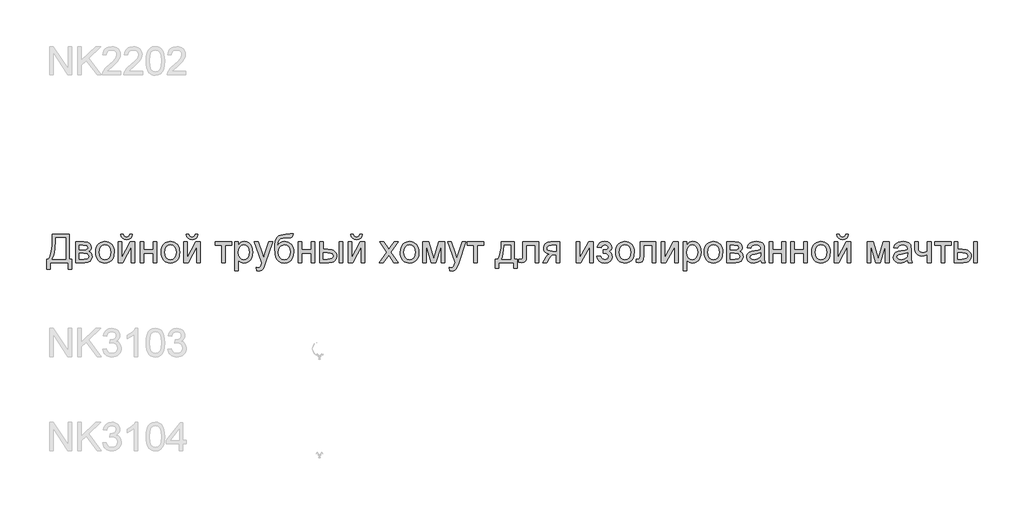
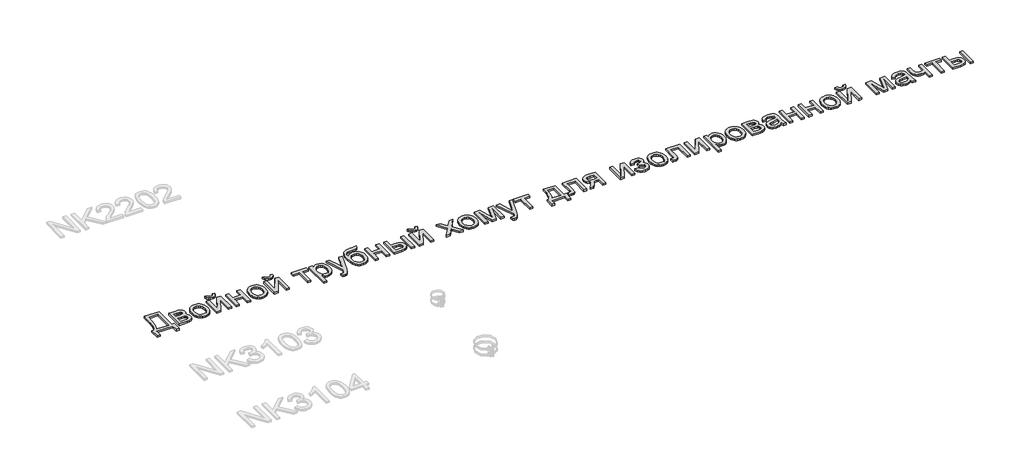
# One storey, part 16 of 124: 1 proxy.
"""IFC4 building model written with IfcOpenShell, lengths in millimetres."""

from ifc_helpers import new_model, si_unit, origin, origin_with_axes, place, context, project, spatial, polyline, outline, extrude, element, save

model = new_model("IFC4")

# Units and contexts
model_context = context("Model", 3, world=origin())
ifc_project = project(units=[si_unit("LENGTHUNIT", "METRE", prefix="MILLI")], contexts=[model_context])

# Site, building, storey
site = spatial("IfcSite", under=ifc_project)
building = spatial("IfcBuilding", under=site)
storey = spatial("IfcBuildingStorey", under=building, Name="Этаж 01", Elevation=0.0)

# Proxy
placement = place(None, origin())
element("IfcBuildingElementProxy", 1, Name="300", ObjectType="300", at=placement, inside=storey, context=model_context, shape_type="SweptSolid", body=[
    extrude(outline(polyline([(1328.0754049, -104247.5042234), (1507.0132074, -104247.5042234), (1507.0132074, -104511.2020376), (1535.2665446, -104511.2020376), (1535.2665446, -104619.506497), (1497.5954283, -104619.506497), (1497.5954283, -104548.8731539), (1304.5309572, -104548.8731539), (1304.5309572, -104619.506497), (1266.8598409, -104619.506497), (1266.8598409, -104511.2020376), (1290.4042886, -104511.2020376), (1306.885402, -104477.0303988), (1318.6576258, -104428.9620176), (1325.7209602, -104366.996894), (1328.0754049, -104291.1350281), (1328.0754049, -104247.5042234)]), holes=[polyline([(1469.3420911, -104285.1753397), (1365.7465212, -104285.1753397), (1365.7465212, -104300.3320779), (1358.0945757, -104403.5597658), (1346.7638103, -104463.2118313), (1328.0754049, -104511.2020376), (1469.3420911, -104511.2020376), (1469.3420911, -104285.1753397)])]), origin_with_axes(), (0.0, 0.0, 1.0), 20.0),
    extrude(outline(polyline([(1577.6465505, -104327.5553456), (1660.6407286, -104327.5553456), (1687.3213703, -104328.8153414), (1706.1477314, -104332.5953289), (1719.9984885, -104339.7322396), (1731.7523182, -104351.0630051), (1739.7813428, -104365.8242701), (1742.4576843, -104383.2526797), (1740.8390035, -104397.2965748), (1735.9829612, -104409.4090895), (1727.8711632, -104419.645406), (1716.4852154, -104428.0607067), (1730.427943, -104435.8873961), (1741.7954967, -104448.4781574), (1749.3554717, -104464.8397091), (1751.8754634, -104483.9787699), (1745.4927108, -104512.6919597), (1730.3175784, -104532.9070753), (1706.2948842, -104544.8816342), (1673.3694456, -104548.8731539), (1577.6465505, -104548.8731539), (1577.6465505, -104327.5553456)]), holes=[polyline([(1615.3176668, -104412.3153573), (1652.5473247, -104412.3153573), (1683.2654713, -104410.4023709), (1698.2014803, -104402.7504254), (1703.1402961, -104396.4228551), (1704.786568, -104388.9180624), (1701.8986943, -104377.6792674), (1693.2350733, -104370.4503862), (1677.5816944, -104366.532443), (1653.7245471, -104365.2264619), (1615.3176668, -104365.2264619), (1615.3176668, -104412.3153573)]), polyline([(1615.3176668, -104511.2020376), (1661.5236454, -104511.2020376), (1686.7051679, -104509.5005834), (1702.5056996, -104504.3962207), (1710.9853796, -104495.1163973), (1714.2043471, -104480.8885612), (1712.5948633, -104471.4615851), (1707.7664121, -104462.7519788), (1700.3535899, -104455.9369649), (1690.9909932, -104452.1937656), (1657.8448254, -104449.9864736), (1615.3176668, -104449.9864736), (1615.3176668, -104511.2020376)])]), origin_with_axes(), (0.0, 0.0, 1.0), 20.0),
    extrude(outline(polyline([(1789.5465797, -104438.2142497), (1791.5837262, -104409.5516438), (1797.6951659, -104384.8529663), (1807.8808986, -104364.1182174), (1822.1409244, -104347.3473969), (1836.4975193, -104336.6282353), (1852.3440362, -104328.9716913), (1869.6804753, -104324.3777649), (1888.5068364, -104322.846456), (1909.2898698, -104324.7111579), (1928.081742, -104330.3052635), (1944.8824529, -104339.6287728), (1959.6920024, -104352.6816859), (1971.7792252, -104369.0225442), (1980.4129558, -104388.2098895), (1985.5931942, -104410.2437218), (1987.3199403, -104435.124041), (1984.2665197, -104473.1814334), (1975.106258, -104502.1521405), (1960.1058697, -104523.8479812), (1939.5320691, -104540.0807742), (1915.0955076, -104550.2067261), (1888.5068364, -104553.5820434), (1867.4203003, -104551.7242393), (1848.4536842, -104546.1508271), (1831.606988, -104536.8618067), (1816.8802119, -104523.8571782), (1804.9217478, -104507.3576707), (1796.3799877, -104487.5840135), (1791.2549317, -104464.5362065), (1789.5465797, -104438.2142497)]), holes=[polyline([(1827.217696, -104438.1406733), (1831.5770976, -104472.2341372), (1844.6553026, -104496.523546), (1864.3369893, -104511.0640818), (1888.5068364, -104515.9109271), (1912.5663189, -104511.0364907), (1932.2112174, -104496.4131814), (1945.2894223, -104471.8018759), (1949.648824, -104436.963451), (1945.2618312, -104403.8632684), (1932.1008528, -104379.9049535), (1912.4283631, -104365.3644176), (1888.5068364, -104360.5175724), (1864.3369893, -104365.3460235), (1844.6553026, -104379.8313771), (1831.5770976, -104404.0656035), (1827.217696, -104438.1406733)])]), origin_with_axes(), (0.0, 0.0, 1.0), 20.0),
    extrude(outline(polyline([(2029.6999461, -104327.5553456), (2067.3710624, -104327.5553456), (2067.3710624, -104496.339605), (2159.9301724, -104327.5553456), (2208.6377486, -104327.5553456), (2208.6377486, -104548.8731539), (2170.9666323, -104548.8731539), (2170.9666323, -104381.1189641), (2078.9961335, -104548.8731539), (2029.6999461, -104548.8731539), (2029.6999461, -104327.5553456)])), origin_with_axes(), (0.0, 0.0, 1.0), 20.0),
    extrude(outline(polyline([(2152.1310741, -104247.5042234), (2180.3844113, -104247.5042234), (2174.3051614, -104271.6280853), (2162.1006762, -104289.4059827), (2144.3227788, -104300.3596691), (2121.5232921, -104304.0108979), (2096.7832279, -104300.3872602), (2077.5981819, -104289.5163473), (2064.4831888, -104271.766041), (2057.9532834, -104247.5042234), (2086.2066206, -104247.5042234), (2090.1797461, -104259.9110437), (2096.801622, -104268.7310146), (2106.1090365, -104274.0009241), (2118.1387778, -104275.7575607), (2131.7136234, -104274.0561064), (2141.5360727, -104268.9517438), (2148.1579486, -104260.1869552), (2152.1310741, -104247.5042234)])), origin_with_axes(), (0.0, 0.0, 1.0), 20.0),
    extrude(outline(polyline([(2265.144423, -104327.5553456), (2302.8155393, -104327.5553456), (2302.8155393, -104412.3153573), (2401.7022196, -104412.3153573), (2401.7022196, -104327.5553456), (2439.373336, -104327.5553456), (2439.373336, -104548.8731539), (2401.7022196, -104548.8731539), (2401.7022196, -104449.9864736), (2302.8155393, -104449.9864736), (2302.8155393, -104548.8731539), (2265.144423, -104548.8731539), (2265.144423, -104327.5553456)])), origin_with_axes(), (0.0, 0.0, 1.0), 20.0),
    extrude(outline(polyline([(2486.4622313, -104438.2142497), (2488.4993779, -104409.5516438), (2494.6108175, -104384.8529663), (2504.7965503, -104364.1182174), (2519.0565761, -104347.3473969), (2533.413171, -104336.6282353), (2549.2596879, -104328.9716913), (2566.5961269, -104324.3777649), (2585.422488, -104322.846456), (2606.2055215, -104324.7111579), (2624.9973937, -104330.3052635), (2641.7981045, -104339.6287728), (2656.6076541, -104352.6816859), (2668.6948769, -104369.0225442), (2677.3286075, -104388.2098895), (2682.5088458, -104410.2437218), (2684.2355919, -104435.124041), (2681.1821714, -104473.1814334), (2672.0219097, -104502.1521405), (2657.0215213, -104523.8479812), (2636.4477208, -104540.0807742), (2612.0111592, -104550.2067261), (2585.422488, -104553.5820434), (2564.3359519, -104551.7242393), (2545.3693358, -104546.1508271), (2528.5226397, -104536.8618067), (2513.7958636, -104523.8571782), (2501.8373995, -104507.3576707), (2493.2956394, -104487.5840135), (2488.1705834, -104464.5362065), (2486.4622313, -104438.2142497)]), holes=[polyline([(2524.1333476, -104438.1406733), (2528.4927493, -104472.2341372), (2541.5709542, -104496.523546), (2561.252641, -104511.0640818), (2585.422488, -104515.9109271), (2609.4819705, -104511.0364907), (2629.1268691, -104496.4131814), (2642.205074, -104471.8018759), (2646.5644756, -104436.963451), (2642.1774828, -104403.8632684), (2629.0165045, -104379.9049535), (2609.3440148, -104365.3644176), (2585.422488, -104360.5175724), (2561.252641, -104365.3460235), (2541.5709542, -104379.8313771), (2528.4927493, -104404.0656035), (2524.1333476, -104438.1406733)])]), origin_with_axes(), (0.0, 0.0, 1.0), 20.0),
    extrude(outline(polyline([(2849.0467258, -104247.5042234), (2877.300063, -104247.5042234), (2871.220813, -104271.6280853), (2859.0163279, -104289.4059827), (2841.2384304, -104300.3596691), (2818.4389438, -104304.0108979), (2793.6988796, -104300.3872602), (2774.5138336, -104289.5163473), (2761.3988404, -104271.766041), (2754.868935, -104247.5042234), (2783.1222722, -104247.5042234), (2787.0953978, -104259.9110437), (2793.7172737, -104268.7310146), (2803.0246882, -104274.0009241), (2815.0544294, -104275.7575607), (2828.629275, -104274.0561064), (2838.4517243, -104268.9517438), (2845.0736002, -104260.1869552), (2849.0467258, -104247.5042234)])), origin_with_axes(), (0.0, 0.0, 1.0), 20.0),
    extrude(outline(polyline([(2726.6155978, -104327.5553456), (2764.2867141, -104327.5553456), (2764.2867141, -104496.339605), (2856.8458241, -104327.5553456), (2905.5534002, -104327.5553456), (2905.5534002, -104548.8731539), (2867.8822839, -104548.8731539), (2867.8822839, -104381.1189641), (2775.9117851, -104548.8731539), (2726.6155978, -104548.8731539), (2726.6155978, -104327.5553456)])), origin_with_axes(), (0.0, 0.0, 1.0), 20.0),
    extrude(outline(polyline([(3060.946755, -104327.5553456), (3239.8845575, -104327.5553456), (3239.8845575, -104365.2264619), (3169.2512144, -104365.2264619), (3169.2512144, -104548.8731539), (3131.5800981, -104548.8731539), (3131.5800981, -104365.2264619), (3060.946755, -104365.2264619), (3060.946755, -104327.5553456)])), origin_with_axes(), (0.0, 0.0, 1.0), 20.0),
    extrude(outline(polyline([(3272.8467842, -104633.6331656), (3272.8467842, -104327.5553456), (3310.5179005, -104327.5553456), (3310.5179005, -104364.4906979), (3322.8051592, -104346.2713421), (3336.5639458, -104333.2575165), (3352.6036008, -104325.4492212), (3371.7334645, -104322.846456), (3397.2092927, -104326.4884878), (3419.4845475, -104337.4145831), (3437.6211299, -104354.9625542), (3450.6809407, -104378.4702137), (3458.5720095, -104406.2269103), (3461.2023658, -104436.5219926), (3458.2317186, -104468.7392583), (3449.3197773, -104497.5536156), (3434.7516503, -104521.5027334), (3414.8124462, -104539.124281), (3391.5898952, -104549.9676028), (3367.1717278, -104553.5820434), (3349.8536829, -104551.1632193), (3334.393442, -104543.906747), (3321.1588872, -104532.9530605), (3310.5179005, -104519.4425943), (3310.5179005, -104633.6331656), (3272.8467842, -104633.6331656)]), holes=[polyline([(3310.5179005, -104439.9800833), (3314.5921936, -104473.7516505), (3326.8150729, -104497.3696746), (3344.8504877, -104511.275614), (3366.3623874, -104515.9109271), (3388.223775, -104511.1100671), (3406.7190423, -104496.707487), (3419.3281977, -104472.2249402), (3423.5312495, -104437.1841801), (3419.4293652, -104403.596554), (3407.1237125, -104379.6474361), (3389.1158888, -104365.3000383), (3367.9074918, -104360.5175724), (3346.6163213, -104365.6035409), (3327.9187189, -104380.8614467), (3314.8681051, -104405.813043), (3310.5179005, -104439.9800833)])]), origin_with_axes(), (0.0, 0.0, 1.0), 20.0),
    extrude(outline(polyline([(3503.5823716, -104633.6331656), (3498.8734821, -104597.3600008), (3518.0033458, -104600.6709388), (3535.8824108, -104596.5138723), (3546.8452942, -104584.9255894), (3557.1459901, -104557.187287), (3560.0890461, -104548.0638135), (3480.0379239, -104327.5553456), (3519.7691794, -104327.5553456), (3562.2227616, -104450.427932), (3577.0116178, -104499.5769665), (3591.800474, -104456.1668911), (3635.4312787, -104327.5553456), (3674.8682286, -104327.5553456), (3597.8337388, -104554.1706546), (3577.8209582, -104603.3196892), (3567.5754447, -104619.0098563), (3555.9687677, -104629.8807692), (3542.4858926, -104636.2267336), (3526.6117845, -104638.3420551), (3503.5823716, -104633.6331656)])), origin_with_axes(), (0.0, 0.0, 1.0), 20.0),
    extrude(outline(polyline([(3861.4579765, -104242.7953339), (3894.4202033, -104242.7953339), (3890.8517479, -104260.70199), (3884.7081186, -104272.1891053), (3876.1916504, -104278.9857252), (3865.5046785, -104282.820895), (3819.3722763, -104285.1753397), (3781.0665635, -104287.3458435), (3757.2370073, -104293.8573548), (3742.98158, -104305.1513321), (3733.398254, -104321.6692337), (3727.7604624, -104343.5398183), (3725.3416383, -104370.8918446), (3740.4891794, -104349.8489945), (3757.9727713, -104334.8394091), (3777.8108079, -104325.8446943), (3800.0216833, -104322.846456), (3820.5449001, -104324.7525446), (3839.2195099, -104330.4708104), (3856.0455127, -104340.0012533), (3871.0229084, -104353.3438734), (3883.3193641, -104369.9376507), (3892.1025467, -104389.221565), (3897.3724563, -104411.1956165), (3899.1290928, -104435.859805), (3895.6434109, -104471.82027), (3885.1863652, -104500.6806125), (3869.9468535, -104523.1122172), (3852.1137738, -104539.7864686), (3829.5258193, -104550.1331497), (3800.0216833, -104553.5820434), (3766.0201899, -104549.1398683), (3740.5351647, -104535.8133431), (3721.78238, -104515.5614392), (3707.9776081, -104490.3431285), (3699.479534, -104452.3685095), (3696.6468427, -104393.8476811), (3698.4333696, -104354.1831043), (3703.7929504, -104321.5680661), (3712.7255851, -104296.0025667), (3725.2312737, -104277.486606), (3741.4433734, -104264.3693137), (3761.4952414, -104254.9998191), (3785.3868777, -104249.3781223), (3813.1182823, -104247.5042234), (3855.0568298, -104246.6580948), (3861.4579765, -104242.7953339)]), holes=[polyline([(3861.4579765, -104434.6825826), (3857.3744864, -104405.0404908), (3845.1240159, -104381.3029051), (3825.4423292, -104365.7139055), (3799.0651901, -104360.5175724), (3771.566011, -104366.0082111), (3760.4789674, -104372.8715096), (3751.1669544, -104382.4801275), (3738.5302078, -104408.1306996), (3734.317959, -104441.1573057), (3738.9716662, -104473.1722363), (3752.9327879, -104496.6706988), (3773.7181207, -104511.10087), (3798.8444609, -104515.9109271), (3824.0995599, -104510.3467119), (3844.0939463, -104493.6540664), (3857.116969, -104467.7827651), (3861.4579765, -104434.6825826)])]), origin_with_axes(), (0.0, 0.0, 1.0), 20.0),
    extrude(outline(polyline([(3946.2179882, -104327.5553456), (3983.8891045, -104327.5553456), (3983.8891045, -104412.3153573), (4082.7757848, -104412.3153573), (4082.7757848, -104327.5553456), (4120.4469011, -104327.5553456), (4120.4469011, -104548.8731539), (4082.7757848, -104548.8731539), (4082.7757848, -104449.9864736), (3983.8891045, -104449.9864736), (3983.8891045, -104548.8731539), (3946.2179882, -104548.8731539), (3946.2179882, -104327.5553456)])), origin_with_axes(), (0.0, 0.0, 1.0), 20.0),
    extrude(outline(polyline([(4384.1447153, -104327.5553456), (4421.8158316, -104327.5553456), (4421.8158316, -104548.8731539), (4384.1447153, -104548.8731539), (4384.1447153, -104327.5553456)])), origin_with_axes(), (0.0, 0.0, 1.0), 20.0),
    extrude(outline(polyline([(4176.9535756, -104327.5553456), (4214.6246919, -104327.5553456), (4214.6246919, -104407.6064677), (4261.1985525, -104407.6064677), (4301.4540398, -104412.3245543), (4317.670738, -104418.2221626), (4331.2800725, -104426.4788141), (4342.0475187, -104436.8094004), (4349.7385517, -104448.9288128), (4354.3531714, -104462.8370515), (4355.891378, -104478.5341164), (4350.731833, -104505.4906696), (4335.2531981, -104528.234974), (4323.391303, -104537.2641777), (4308.4437977, -104543.7136089), (4269.2919564, -104548.8731539), (4176.9535756, -104548.8731539), (4176.9535756, -104327.5553456)]), holes=[polyline([(4214.6246919, -104511.2020376), (4253.3258778, -104511.2020376), (4283.3266545, -104509.2246719), (4303.2842527, -104503.2925747), (4314.4862595, -104493.1666228), (4318.2202617, -104478.6076928), (4315.4519497, -104466.3020401), (4307.1470137, -104455.4311271), (4289.3875103, -104447.8159698), (4258.2554965, -104445.277584), (4214.6246919, -104445.277584), (4214.6246919, -104511.2020376)])]), origin_with_axes(), (0.0, 0.0, 1.0), 20.0),
    extrude(outline(polyline([(4478.322506, -104327.5553456), (4515.9936223, -104327.5553456), (4515.9936223, -104496.339605), (4608.5527323, -104327.5553456), (4657.2603085, -104327.5553456), (4657.2603085, -104548.8731539), (4619.5891922, -104548.8731539), (4619.5891922, -104381.1189641), (4527.6186934, -104548.8731539), (4478.322506, -104548.8731539), (4478.322506, -104327.5553456)])), origin_with_axes(), (0.0, 0.0, 1.0), 20.0),
    extrude(outline(polyline([(4600.753634, -104247.5042234), (4629.0069712, -104247.5042234), (4622.9277213, -104271.6280853), (4610.7232361, -104289.4059827), (4592.9453387, -104300.3596691), (4570.145852, -104304.0108979), (4545.4057878, -104300.3872602), (4526.2207418, -104289.5163473), (4513.1057487, -104271.766041), (4506.5758433, -104247.5042234), (4534.8291805, -104247.5042234), (4538.802306, -104259.9110437), (4545.4241819, -104268.7310146), (4554.7315964, -104274.0009241), (4566.7613377, -104275.7575607), (4580.3361833, -104274.0561064), (4590.1586326, -104268.9517438), (4596.7805085, -104260.1869552), (4600.753634, -104247.5042234)])), origin_with_axes(), (0.0, 0.0, 1.0), 20.0),
    extrude(outline(polyline([(4807.9447737, -104548.8731539), (4888.4373542, -104437.6256385), (4812.6536632, -104327.5553456), (4857.976725, -104327.5553456), (4894.5441954, -104380.5303529), (4911.6139199, -104405.5463286), (4926.4027761, -104385.0920896), (4968.047018, -104327.5553456), (5013.3700798, -104327.5553456), (4933.7604161, -104437.6256385), (5010.4270238, -104548.8731539), (4965.103962, -104548.8731539), (4918.9715598, -104481.9922072), (4910.510274, -104469.7785249), (4853.2678355, -104548.8731539), (4807.9447737, -104548.8731539)])), origin_with_axes(), (0.0, 0.0, 1.0), 20.0),
    extrude(outline(polyline([(5033.9714715, -104438.2142497), (5036.0086181, -104409.5516438), (5042.1200577, -104384.8529663), (5052.3057905, -104364.1182174), (5066.5658163, -104347.3473969), (5080.9224112, -104336.6282353), (5096.7689281, -104328.9716913), (5114.1053671, -104324.3777649), (5132.9317282, -104322.846456), (5153.7147617, -104324.7111579), (5172.5066339, -104330.3052635), (5189.3073447, -104339.6287728), (5204.1168943, -104352.6816859), (5216.2041171, -104369.0225442), (5224.8378477, -104388.2098895), (5230.018086, -104410.2437218), (5231.7448321, -104435.124041), (5228.6914116, -104473.1814334), (5219.5311499, -104502.1521405), (5204.5307616, -104523.8479812), (5183.956961, -104540.0807742), (5159.5203994, -104550.2067261), (5132.9317282, -104553.5820434), (5111.8451921, -104551.7242393), (5092.878576, -104546.1508271), (5076.0318799, -104536.8618067), (5061.3051038, -104523.8571782), (5049.3466397, -104507.3576707), (5040.8048796, -104487.5840135), (5035.6798236, -104464.5362065), (5033.9714715, -104438.2142497)]), holes=[polyline([(5071.6425878, -104438.1406733), (5076.0019895, -104472.2341372), (5089.0801944, -104496.523546), (5108.7618812, -104511.0640818), (5132.9317282, -104515.9109271), (5156.9912107, -104511.0364907), (5176.6361093, -104496.4131814), (5189.7143142, -104471.8018759), (5194.0737158, -104436.963451), (5189.686723, -104403.8632684), (5176.5257447, -104379.9049535), (5156.853255, -104365.3644176), (5132.9317282, -104360.5175724), (5108.7618812, -104365.3460235), (5089.0801944, -104379.8313771), (5076.0019895, -104404.0656035), (5071.6425878, -104438.1406733)])]), origin_with_axes(), (0.0, 0.0, 1.0), 20.0),
    extrude(outline(polyline([(5274.124838, -104327.5553456), (5338.9456455, -104327.5553456), (5388.9040205, -104504.7273145), (5442.7619446, -104327.5553456), (5504.8604254, -104327.5553456), (5504.8604254, -104548.8731539), (5467.1893091, -104548.8731539), (5467.1893091, -104370.6711154), (5413.0370794, -104548.8731539), (5363.5937392, -104548.8731539), (5311.7959543, -104362.1362531), (5311.7959543, -104548.8731539), (5274.124838, -104548.8731539), (5274.124838, -104327.5553456)])), origin_with_axes(), (0.0, 0.0, 1.0), 20.0),
    extrude(outline(polyline([(5561.3670998, -104633.6331656), (5556.6582103, -104597.3600008), (5575.788074, -104600.6709388), (5593.667139, -104596.5138723), (5604.6300225, -104584.9255894), (5614.9307183, -104557.187287), (5617.8737743, -104548.0638135), (5537.8226521, -104327.5553456), (5577.5539076, -104327.5553456), (5620.0074899, -104450.427932), (5634.7963461, -104499.5769665), (5649.5852023, -104456.1668911), (5693.2160069, -104327.5553456), (5732.6529568, -104327.5553456), (5655.618467, -104554.1706546), (5635.6056864, -104603.3196892), (5625.3601729, -104619.0098563), (5613.7534959, -104629.8807692), (5600.2706208, -104636.2267336), (5584.3965127, -104638.3420551), (5561.3670998, -104633.6331656)])), origin_with_axes(), (0.0, 0.0, 1.0), 20.0),
    extrude(outline(polyline([(5745.0137918, -104327.5553456), (5923.9515943, -104327.5553456), (5923.9515943, -104365.2264619), (5853.3182512, -104365.2264619), (5853.3182512, -104548.8731539), (5815.6471349, -104548.8731539), (5815.6471349, -104365.2264619), (5745.0137918, -104365.2264619), (5745.0137918, -104327.5553456)])), origin_with_axes(), (0.0, 0.0, 1.0), 20.0),
    extrude(outline(polyline([(6107.5982863, -104327.5553456), (6248.8649724, -104327.5553456), (6248.8649724, -104511.2020376), (6277.1183096, -104511.2020376), (6277.1183096, -104610.0887179), (6239.4471933, -104610.0887179), (6239.4471933, -104548.8731539), (6084.0538386, -104548.8731539), (6084.0538386, -104610.0887179), (6046.3827223, -104610.0887179), (6046.3827223, -104511.2020376), (6069.92717, -104511.2020376), (6087.0428798, -104480.2723588), (6099.0266358, -104439.3546839), (6105.8784379, -104388.4490128), (6107.5982863, -104327.5553456)]), holes=[polyline([(6140.560513, -104365.2264619), (6137.4703043, -104411.349667), (6131.7313451, -104451.0533314), (6123.3436357, -104484.3374549), (6112.3071758, -104511.2020376), (6211.1938561, -104511.2020376), (6211.1938561, -104365.2264619), (6140.560513, -104365.2264619)])]), origin_with_axes(), (0.0, 0.0, 1.0), 20.0),
    extrude(outline(polyline([(6338.3338736, -104327.5553456), (6507.853897, -104327.5553456), (6507.853897, -104548.6524247), (6470.1827807, -104548.6524247), (6470.1827807, -104365.2264619), (6376.0049899, -104365.2264619), (6376.0049899, -104470.8085945), (6373.4666042, -104519.5161707), (6368.7117294, -104530.5434335), (6359.5238766, -104540.0807742), (6345.5811489, -104546.675059), (6326.5616498, -104548.8731539), (6295.9538678, -104546.9601675), (6295.9538678, -104511.2020376), (6312.8028632, -104511.2020376), (6329.8357995, -104508.884381), (6336.6416165, -104501.5267411), (6338.3338736, -104468.6748789), (6338.3338736, -104327.5553456)])), origin_with_axes(), (0.0, 0.0, 1.0), 20.0),
    extrude(outline(polyline([(6733.8805948, -104327.5553456), (6733.8805948, -104548.8731539), (6696.2094785, -104548.8731539), (6696.2094785, -104464.1131422), (6675.6816632, -104464.1131422), (6647.7226316, -104468.8956081), (6636.557413, -104479.3250627), (6621.4558571, -104501.0484945), (6591.4366863, -104548.8731539), (6547.8794581, -104548.8731539), (6585.6977272, -104488.3933539), (6602.3995698, -104466.6883162), (6617.7770372, -104457.0498079), (6592.0252975, -104449.1587391), (6573.9255033, -104434.1675478), (6563.2201373, -104414.2283437), (6559.6516819, -104391.4932363), (6564.5261184, -104365.7047085), (6579.1494277, -104345.2872578), (6603.0065751, -104331.9883236), (6635.5825257, -104327.5553456), (6733.8805948, -104327.5553456)]), holes=[polyline([(6696.2094785, -104365.2264619), (6646.5454092, -104365.2264619), (6620.8948371, -104367.4061627), (6606.3359071, -104373.9452652), (6599.5760755, -104383.4090295), (6597.3227982, -104394.3627159), (6600.6429332, -104408.7193108), (6610.6033383, -104418.6797158), (6629.0066351, -104424.5014484), (6657.6554454, -104426.4420259), (6696.2094785, -104426.4420259), (6696.2094785, -104365.2264619)])]), origin_with_axes(), (0.0, 0.0, 1.0), 20.0),
    extrude(outline(polyline([(6908.1095078, -104327.5553456), (6945.7806241, -104327.5553456), (6945.7806241, -104496.339605), (7038.3397341, -104327.5553456), (7087.0473102, -104327.5553456), (7087.0473102, -104548.8731539), (7049.3761939, -104548.8731539), (7049.3761939, -104381.1189641), (6957.4056951, -104548.8731539), (6908.1095078, -104548.8731539), (6908.1095078, -104327.5553456)])), origin_with_axes(), (0.0, 0.0, 1.0), 20.0),
    extrude(outline(polyline([(7195.3517696, -104449.9864736), (7195.3517696, -104412.3153573), (7225.0766348, -104410.8438293), (7240.0862202, -104403.0079428), (7245.3837209, -104395.6594999), (7247.1495545, -104386.637194), (7244.7859127, -104375.9226309), (7237.6949872, -104367.6176949), (7226.8700595, -104362.292603), (7213.304411, -104360.5175724), (7199.5916096, -104362.2834059), (7188.1044943, -104367.5809067), (7178.8430651, -104376.4100745), (7171.8073219, -104388.7709096), (7129.4273161, -104384.06202), (7140.666111, -104357.2802108), (7157.7542297, -104338.150347), (7180.6916721, -104326.6724288), (7209.4784382, -104322.846456), (7240.969137, -104327.5093603), (7264.8078903, -104341.4980732), (7279.8174757, -104361.9615092), (7284.8206708, -104386.0485828), (7283.0410417, -104398.4094179), (7277.7021542, -104409.4458777), (7268.8040085, -104419.1579624), (7256.3466044, -104427.5456719), (7270.8871403, -104438.0119146), (7281.2522155, -104451.0165432), (7287.4602241, -104466.5963457), (7289.5295604, -104484.7881103), (7284.2780449, -104512.5172157), (7268.5234984, -104534.4889679), (7243.3327788, -104548.8087745), (7209.7727438, -104553.5820434), (7176.9484728, -104549.1674595), (7151.8313296, -104535.9237077), (7134.4213141, -104513.8507879), (7124.7184265, -104482.9487003), (7167.0984324, -104478.2398108), (7173.4443968, -104494.1691012), (7184.0945805, -104506.0516896), (7197.816579, -104513.4461178), (7213.3779874, -104515.9109271), (7228.5347256, -104513.5472853), (7240.8955606, -104506.4563598), (7249.1177232, -104495.6866144), (7251.8584441, -104482.2865128), (7250.1569898, -104471.6731172), (7245.0526271, -104462.4944614), (7230.5580765, -104451.89946), (7202.7094095, -104449.7657444), (7195.3517696, -104449.9864736)])), origin_with_axes(), (0.0, 0.0, 1.0), 20.0),
    extrude(outline(polyline([(7327.2006767, -104438.2142497), (7329.2378232, -104409.5516438), (7335.3492629, -104384.8529663), (7345.5349956, -104364.1182174), (7359.7950214, -104347.3473969), (7374.1516163, -104336.6282353), (7389.9981332, -104328.9716913), (7407.3345723, -104324.3777649), (7426.1609334, -104322.846456), (7446.9439668, -104324.7111579), (7465.735839, -104330.3052635), (7482.5365499, -104339.6287728), (7497.3460994, -104352.6816859), (7509.4333222, -104369.0225442), (7518.0670528, -104388.2098895), (7523.2472912, -104410.2437218), (7524.9740373, -104435.124041), (7521.9206167, -104473.1814334), (7512.760355, -104502.1521405), (7497.7599667, -104523.8479812), (7477.1861661, -104540.0807742), (7452.7496046, -104550.2067261), (7426.1609334, -104553.5820434), (7405.0743973, -104551.7242393), (7386.1077811, -104546.1508271), (7369.261085, -104536.8618067), (7354.5343089, -104523.8571782), (7342.5758448, -104507.3576707), (7334.0340847, -104487.5840135), (7328.9090287, -104464.5362065), (7327.2006767, -104438.2142497)]), holes=[polyline([(7364.871793, -104438.1406733), (7369.2311946, -104472.2341372), (7382.3093995, -104496.523546), (7401.9910863, -104511.0640818), (7426.1609334, -104515.9109271), (7450.2204159, -104511.0364907), (7469.8653144, -104496.4131814), (7482.9435193, -104471.8018759), (7487.302921, -104436.963451), (7482.9159282, -104403.8632684), (7469.7549498, -104379.9049535), (7450.0824601, -104365.3644176), (7426.1609334, -104360.5175724), (7401.9910863, -104365.3460235), (7382.3093995, -104379.8313771), (7369.2311946, -104404.0656035), (7364.871793, -104438.1406733)])]), origin_with_axes(), (0.0, 0.0, 1.0), 20.0),
    extrude(outline(polyline([(7586.1896013, -104327.5553456), (7755.7096247, -104327.5553456), (7755.7096247, -104548.6524247), (7718.0385083, -104548.6524247), (7718.0385083, -104365.2264619), (7623.8607176, -104365.2264619), (7623.8607176, -104470.8085945), (7621.3223318, -104519.5161707), (7616.567457, -104530.5434335), (7607.3796042, -104540.0807742), (7593.4368766, -104546.675059), (7574.4173774, -104548.8731539), (7543.8095954, -104546.9601675), (7543.8095954, -104511.2020376), (7560.6585908, -104511.2020376), (7577.6915272, -104508.884381), (7584.4973441, -104501.5267411), (7586.1896013, -104468.6748789), (7586.1896013, -104327.5553456)])), origin_with_axes(), (0.0, 0.0, 1.0), 20.0),
    extrude(outline(polyline([(7812.2162991, -104327.5553456), (7849.8874154, -104327.5553456), (7849.8874154, -104496.339605), (7942.4465254, -104327.5553456), (7991.1541016, -104327.5553456), (7991.1541016, -104548.8731539), (7953.4829853, -104548.8731539), (7953.4829853, -104381.1189641), (7861.5124865, -104548.8731539), (7812.2162991, -104548.8731539), (7812.2162991, -104327.5553456)])), origin_with_axes(), (0.0, 0.0, 1.0), 20.0),
    extrude(outline(polyline([(8047.660776, -104633.6331656), (8047.660776, -104327.5553456), (8085.3318923, -104327.5553456), (8085.3318923, -104364.4906979), (8097.619151, -104346.2713421), (8111.3779376, -104333.2575165), (8127.4175926, -104325.4492212), (8146.5474563, -104322.846456), (8172.0232845, -104326.4884878), (8194.2985393, -104337.4145831), (8212.4351217, -104354.9625542), (8225.4949325, -104378.4702137), (8233.3860013, -104406.2269103), (8236.0163576, -104436.5219926), (8233.0457104, -104468.7392583), (8224.1337691, -104497.5536156), (8209.5656421, -104521.5027334), (8189.626438, -104539.124281), (8166.403887, -104549.9676028), (8141.9857196, -104553.5820434), (8124.6676747, -104551.1632193), (8109.2074338, -104543.906747), (8095.972879, -104532.9530605), (8085.3318923, -104519.4425943), (8085.3318923, -104633.6331656), (8047.660776, -104633.6331656)]), holes=[polyline([(8085.3318923, -104439.9800833), (8089.4061854, -104473.7516505), (8101.6290647, -104497.3696746), (8119.6644795, -104511.275614), (8141.1763792, -104515.9109271), (8163.0377668, -104511.1100671), (8181.5330341, -104496.707487), (8194.1421895, -104472.2249402), (8198.3452412, -104437.1841801), (8194.243357, -104403.596554), (8181.9377043, -104379.6474361), (8163.9298806, -104365.3000383), (8142.7214836, -104360.5175724), (8121.4303131, -104365.6035409), (8102.7327107, -104380.8614467), (8089.6820969, -104405.813043), (8085.3318923, -104439.9800833)])]), origin_with_axes(), (0.0, 0.0, 1.0), 20.0),
    extrude(outline(polyline([(8268.9785843, -104438.2142497), (8271.0157309, -104409.5516438), (8277.1271705, -104384.8529663), (8287.3129033, -104364.1182174), (8301.5729291, -104347.3473969), (8315.929524, -104336.6282353), (8331.7760409, -104328.9716913), (8349.1124799, -104324.3777649), (8367.938841, -104322.846456), (8388.7218745, -104324.7111579), (8407.5137467, -104330.3052635), (8424.3144575, -104339.6287728), (8439.1240071, -104352.6816859), (8451.2112299, -104369.0225442), (8459.8449605, -104388.2098895), (8465.0251988, -104410.2437218), (8466.7519449, -104435.124041), (8463.6985244, -104473.1814334), (8454.5382627, -104502.1521405), (8439.5378743, -104523.8479812), (8418.9640738, -104540.0807742), (8394.5275122, -104550.2067261), (8367.938841, -104553.5820434), (8346.8523049, -104551.7242393), (8327.8856888, -104546.1508271), (8311.0389927, -104536.8618067), (8296.3122166, -104523.8571782), (8284.3537525, -104507.3576707), (8275.8119924, -104487.5840135), (8270.6869363, -104464.5362065), (8268.9785843, -104438.2142497)]), holes=[polyline([(8306.6497006, -104438.1406733), (8311.0091023, -104472.2341372), (8324.0873072, -104496.523546), (8343.7689939, -104511.0640818), (8367.938841, -104515.9109271), (8391.9983235, -104511.0364907), (8411.6432221, -104496.4131814), (8424.721427, -104471.8018759), (8429.0808286, -104436.963451), (8424.6938358, -104403.8632684), (8411.5328575, -104379.9049535), (8391.8603678, -104365.3644176), (8367.938841, -104360.5175724), (8343.7689939, -104365.3460235), (8324.0873072, -104379.8313771), (8311.0091023, -104404.0656035), (8306.6497006, -104438.1406733)])]), origin_with_axes(), (0.0, 0.0, 1.0), 20.0),
    extrude(outline(polyline([(8509.1319508, -104327.5553456), (8592.1261289, -104327.5553456), (8618.8067706, -104328.8153414), (8637.6331317, -104332.5953289), (8651.4838888, -104339.7322396), (8663.2377186, -104351.0630051), (8671.2667431, -104365.8242701), (8673.9430846, -104383.2526797), (8672.3244038, -104397.2965748), (8667.4683615, -104409.4090895), (8659.3565635, -104419.645406), (8647.9706158, -104428.0607067), (8661.9133434, -104435.8873961), (8673.280897, -104448.4781574), (8680.840872, -104464.8397091), (8683.3608637, -104483.9787699), (8676.9781111, -104512.6919597), (8661.8029788, -104532.9070753), (8637.7802845, -104544.8816342), (8604.8548459, -104548.8731539), (8509.1319508, -104548.8731539), (8509.1319508, -104327.5553456)]), holes=[polyline([(8546.8030671, -104412.3153573), (8584.032725, -104412.3153573), (8614.7508716, -104410.4023709), (8629.6868806, -104402.7504254), (8634.6256964, -104396.4228551), (8636.2719683, -104388.9180624), (8633.3840946, -104377.6792674), (8624.7204737, -104370.4503862), (8609.0670948, -104366.532443), (8585.2099474, -104365.2264619), (8546.8030671, -104365.2264619), (8546.8030671, -104412.3153573)]), polyline([(8546.8030671, -104511.2020376), (8593.0090457, -104511.2020376), (8618.1905682, -104509.5005834), (8633.9910999, -104504.3962207), (8642.4707799, -104495.1163973), (8645.6897474, -104480.8885612), (8644.0802637, -104471.4615851), (8639.2518125, -104462.7519788), (8631.8389903, -104455.9369649), (8622.4763935, -104452.1937656), (8589.3302257, -104449.9864736), (8546.8030671, -104449.9864736), (8546.8030671, -104511.2020376)])]), origin_with_axes(), (0.0, 0.0, 1.0), 20.0),
    extrude(outline(polyline([(8871.7164452, -104520.6198167), (8853.7178186, -104536.0524664), (8835.1857631, -104546.1508271), (8815.6972144, -104551.7242393), (8794.8291082, -104553.5820434), (8763.3476065, -104549.1122772), (8740.1250555, -104535.7029785), (8725.8052489, -104515.34071), (8721.03198, -104490.0120347), (8722.8346018, -104474.395444), (8728.2424671, -104460.213593), (8736.5841913, -104448.0734872), (8747.1883899, -104438.5821317), (8773.5655289, -104426.2212967), (8806.1598737, -104420.555914), (8844.6771186, -104414.5962256), (8871.495716, -104407.6064677), (8871.7164452, -104399.2187582), (8869.1228772, -104382.4065511), (8861.342173, -104371.4068794), (8843.9413546, -104363.2398991), (8819.6979311, -104360.5175724), (8797.2571294, -104362.3293912), (8781.5853564, -104367.7648477), (8770.8983844, -104377.8172232), (8763.4119858, -104393.4797991), (8725.7408695, -104388.7709096), (8732.279972, -104368.1695179), (8742.0380419, -104351.9827101), (8755.9255872, -104339.6034809), (8774.8531159, -104330.4248251), (8798.0020904, -104324.7410483), (8824.5539734, -104322.846456), (8850.0206046, -104324.5203191), (8870.208129, -104329.5419084), (8885.4292466, -104337.0926863), (8895.9966569, -104346.3541155), (8903.0048089, -104357.8044426), (8907.5481516, -104371.9219142), (8909.3875615, -104404.884141), (8909.3875615, -104451.7523072), (8911.3005479, -104517.1985141), (8918.8053406, -104548.8731539), (8881.1342243, -104548.8731539), (8871.7164452, -104520.6198167)]), holes=[polyline([(8871.7164452, -104445.277584), (8810.9423396, -104456.8290787), (8778.5319358, -104462.9359198), (8763.8534442, -104472.8687337), (8758.7030963, -104487.3632843), (8761.5081965, -104498.565291), (8769.9234972, -104507.7439468), (8783.7650572, -104513.869182), (8802.8489357, -104515.9109271), (8823.0824455, -104513.6576499), (8840.9615104, -104506.8978182), (8855.456061, -104496.9374132), (8865.5360277, -104485.0824159), (8870.0057939, -104472.8687337), (8871.495716, -104455.9461619), (8871.7164452, -104445.277584)])]), origin_with_axes(), (0.0, 0.0, 1.0), 20.0),
    extrude(outline(polyline([(8961.1853464, -104327.5553456), (8998.8564628, -104327.5553456), (8998.8564628, -104412.3153573), (9097.7431431, -104412.3153573), (9097.7431431, -104327.5553456), (9135.4142594, -104327.5553456), (9135.4142594, -104548.8731539), (9097.7431431, -104548.8731539), (9097.7431431, -104449.9864736), (8998.8564628, -104449.9864736), (8998.8564628, -104548.8731539), (8961.1853464, -104548.8731539), (8961.1853464, -104327.5553456)])), origin_with_axes(), (0.0, 0.0, 1.0), 20.0),
    extrude(outline(polyline([(9191.9209338, -104327.5553456), (9229.5920501, -104327.5553456), (9229.5920501, -104412.3153573), (9328.4787304, -104412.3153573), (9328.4787304, -104327.5553456), (9366.1498467, -104327.5553456), (9366.1498467, -104548.8731539), (9328.4787304, -104548.8731539), (9328.4787304, -104449.9864736), (9229.5920501, -104449.9864736), (9229.5920501, -104548.8731539), (9191.9209338, -104548.8731539), (9191.9209338, -104327.5553456)])), origin_with_axes(), (0.0, 0.0, 1.0), 20.0),
    extrude(outline(polyline([(9413.2387421, -104438.2142497), (9415.2758887, -104409.5516438), (9421.3873283, -104384.8529663), (9431.5730611, -104364.1182174), (9445.8330869, -104347.3473969), (9460.1896818, -104336.6282353), (9476.0361987, -104328.9716913), (9493.3726377, -104324.3777649), (9512.1989988, -104322.846456), (9532.9820323, -104324.7111579), (9551.7739045, -104330.3052635), (9568.5746153, -104339.6287728), (9583.3841649, -104352.6816859), (9595.4713877, -104369.0225442), (9604.1051183, -104388.2098895), (9609.2853566, -104410.2437218), (9611.0121027, -104435.124041), (9607.9586822, -104473.1814334), (9598.7984205, -104502.1521405), (9583.7980321, -104523.8479812), (9563.2242316, -104540.0807742), (9538.78767, -104550.2067261), (9512.1989988, -104553.5820434), (9491.1124627, -104551.7242393), (9472.1458466, -104546.1508271), (9455.2991505, -104536.8618067), (9440.5723744, -104523.8571782), (9428.6139103, -104507.3576707), (9420.0721502, -104487.5840135), (9414.9470941, -104464.5362065), (9413.2387421, -104438.2142497)]), holes=[polyline([(9450.9098584, -104438.1406733), (9455.2692601, -104472.2341372), (9468.347465, -104496.523546), (9488.0291517, -104511.0640818), (9512.1989988, -104515.9109271), (9536.2584813, -104511.0364907), (9555.9033799, -104496.4131814), (9568.9815848, -104471.8018759), (9573.3409864, -104436.963451), (9568.9539936, -104403.8632684), (9555.7930153, -104379.9049535), (9536.1205256, -104365.3644176), (9512.1989988, -104360.5175724), (9488.0291517, -104365.3460235), (9468.347465, -104379.8313771), (9455.2692601, -104404.0656035), (9450.9098584, -104438.1406733)])]), origin_with_axes(), (0.0, 0.0, 1.0), 20.0),
    extrude(outline(polyline([(9653.3921086, -104327.5553456), (9691.0632249, -104327.5553456), (9691.0632249, -104496.339605), (9783.6223349, -104327.5553456), (9832.329911, -104327.5553456), (9832.329911, -104548.8731539), (9794.6587947, -104548.8731539), (9794.6587947, -104381.1189641), (9702.6882959, -104548.8731539), (9653.3921086, -104548.8731539), (9653.3921086, -104327.5553456)])), origin_with_axes(), (0.0, 0.0, 1.0), 20.0),
    extrude(outline(polyline([(9775.8232366, -104247.5042234), (9804.0765738, -104247.5042234), (9797.9973238, -104271.6280853), (9785.7928386, -104289.4059827), (9768.0149412, -104300.3596691), (9745.2154546, -104304.0108979), (9720.4753904, -104300.3872602), (9701.2903443, -104289.5163473), (9688.1753512, -104271.766041), (9681.6454458, -104247.5042234), (9709.898783, -104247.5042234), (9713.8719086, -104259.9110437), (9720.4937845, -104268.7310146), (9729.801199, -104274.0009241), (9741.8309402, -104275.7575607), (9755.4057858, -104274.0561064), (9765.2282351, -104268.9517438), (9771.850111, -104260.1869552), (9775.8232366, -104247.5042234)])), origin_with_axes(), (0.0, 0.0, 1.0), 20.0),
    extrude(outline(polyline([(10006.5588239, -104327.5553456), (10071.3796315, -104327.5553456), (10121.3380064, -104504.7273145), (10175.1959305, -104327.5553456), (10237.2944113, -104327.5553456), (10237.2944113, -104548.8731539), (10199.623295, -104548.8731539), (10199.623295, -104370.6711154), (10145.4710653, -104548.8731539), (10096.0277252, -104548.8731539), (10044.2299402, -104362.1362531), (10044.2299402, -104548.8731539), (10006.5588239, -104548.8731539), (10006.5588239, -104327.5553456)])), origin_with_axes(), (0.0, 0.0, 1.0), 20.0),
    extrude(outline(polyline([(10435.0677719, -104520.6198167), (10417.0691453, -104536.0524664), (10398.5370898, -104546.1508271), (10379.0485411, -104551.7242393), (10358.1804349, -104553.5820434), (10326.6989332, -104549.1122772), (10303.4763822, -104535.7029785), (10289.1565756, -104515.34071), (10284.3833067, -104490.0120347), (10286.1859285, -104474.395444), (10291.5937938, -104460.213593), (10299.935518, -104448.0734872), (10310.5397166, -104438.5821317), (10336.9168556, -104426.2212967), (10369.5112004, -104420.555914), (10408.0284453, -104414.5962256), (10434.8470427, -104407.6064677), (10435.0677719, -104399.2187582), (10432.4742039, -104382.4065511), (10424.6934997, -104371.4068794), (10407.2926813, -104363.2398991), (10383.0492578, -104360.5175724), (10360.6084561, -104362.3293912), (10344.9366831, -104367.7648477), (10334.2497111, -104377.8172232), (10326.7633125, -104393.4797991), (10289.0921962, -104388.7709096), (10295.6312987, -104368.1695179), (10305.3893686, -104351.9827101), (10319.2769139, -104339.6034809), (10338.2044426, -104330.4248251), (10361.3534171, -104324.7410483), (10387.9053001, -104322.846456), (10413.3719313, -104324.5203191), (10433.5594557, -104329.5419084), (10448.7805733, -104337.0926863), (10459.3479836, -104346.3541155), (10466.3561356, -104357.8044426), (10470.8994783, -104371.9219142), (10472.7388882, -104404.884141), (10472.7388882, -104451.7523072), (10474.6518746, -104517.1985141), (10482.1566673, -104548.8731539), (10444.485551, -104548.8731539), (10435.0677719, -104520.6198167)]), holes=[polyline([(10435.0677719, -104445.277584), (10374.2936663, -104456.8290787), (10341.8832625, -104462.9359198), (10327.2047709, -104472.8687337), (10322.054423, -104487.3632843), (10324.8595232, -104498.565291), (10333.2748239, -104507.7439468), (10347.1163839, -104513.869182), (10366.2002624, -104515.9109271), (10386.4337722, -104513.6576499), (10404.3128371, -104506.8978182), (10418.8073877, -104496.9374132), (10428.8873544, -104485.0824159), (10433.3571206, -104472.8687337), (10434.8470427, -104455.9461619), (10435.0677719, -104445.277584)])]), origin_with_axes(), (0.0, 0.0, 1.0), 20.0),
    extrude(outline(polyline([(10510.4100045, -104327.5553456), (10548.0811208, -104327.5553456), (10548.0811208, -104370.0089278), (10551.1345414, -104409.8137597), (10556.3308746, -104421.3836485), (10565.813033, -104431.3716446), (10578.909632, -104438.269432), (10594.949287, -104440.5686945), (10617.997094, -104437.717609), (10646.9678011, -104429.1643527), (10646.9678011, -104327.5553456), (10684.6389175, -104327.5553456), (10684.6389175, -104548.8731539), (10646.9678011, -104548.8731539), (10646.9678011, -104465.2903646), (10614.8149148, -104475.0024493), (10584.8693204, -104478.2398108), (10562.0882278, -104474.8644935), (10542.1582207, -104464.7385416), (10526.6244035, -104449.7197591), (10517.0318804, -104431.6659502), (10512.0654735, -104411.1197408), (10510.4100045, -104388.6237568), (10510.4100045, -104327.5553456)])), origin_with_axes(), (0.0, 0.0, 1.0), 20.0),
    extrude(outline(polyline([(10722.3100338, -104327.5553456), (10901.2478362, -104327.5553456), (10901.2478362, -104365.2264619), (10830.6144931, -104365.2264619), (10830.6144931, -104548.8731539), (10792.9433768, -104548.8731539), (10792.9433768, -104365.2264619), (10722.3100338, -104365.2264619), (10722.3100338, -104327.5553456)])), origin_with_axes(), (0.0, 0.0, 1.0), 20.0),
    extrude(outline(polyline([(11141.4012027, -104327.5553456), (11179.072319, -104327.5553456), (11179.072319, -104548.8731539), (11141.4012027, -104548.8731539), (11141.4012027, -104327.5553456)])), origin_with_axes(), (0.0, 0.0, 1.0), 20.0),
    extrude(outline(polyline([(10934.210063, -104327.5553456), (10971.8811793, -104327.5553456), (10971.8811793, -104407.6064677), (11018.4550399, -104407.6064677), (11058.7105272, -104412.3245543), (11074.9272254, -104418.2221626), (11088.53656, -104426.4788141), (11099.3040061, -104436.8094004), (11106.9950391, -104448.9288128), (11111.6096588, -104462.8370515), (11113.1478654, -104478.5341164), (11107.9883205, -104505.4906696), (11092.5096855, -104528.234974), (11080.6477904, -104537.2641777), (11065.7002851, -104543.7136089), (11026.5484438, -104548.8731539), (10934.210063, -104548.8731539), (10934.210063, -104327.5553456)]), holes=[polyline([(10971.8811793, -104511.2020376), (11010.5823652, -104511.2020376), (11040.5831419, -104509.2246719), (11060.5407401, -104503.2925747), (11071.7427469, -104493.1666228), (11075.4767491, -104478.6076928), (11072.7084371, -104466.3020401), (11064.4035011, -104455.4311271), (11046.6439978, -104447.8159698), (11015.5119839, -104445.277584), (10971.8811793, -104445.277584), (10971.8811793, -104511.2020376)])]), origin_with_axes(), (0.0, 0.0, 1.0), 20.0),
])

save(model, "model.ifc")
